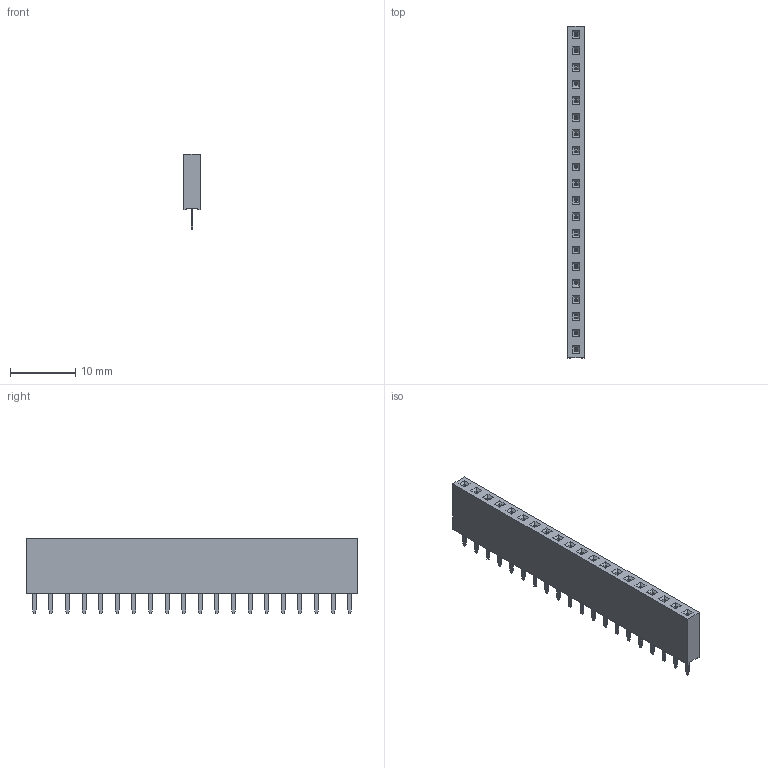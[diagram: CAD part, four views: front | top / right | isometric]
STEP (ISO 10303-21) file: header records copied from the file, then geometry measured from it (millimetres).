
FILE_DESCRIPTION(/* description */ ('STEP AP242 Edition 2','CAx-IF Rec.Pracs.---Representation and Presentation of Product Manufacturing Information (PMI)---4.0---2014-10-13','CAx-IF Rec.Pracs.---3D Tessellated Geometry---0.4---2014-09-14','2;1','CAx-IF Rec.Pracs.---User Defined Attributes---1.5---2016-08-15'),/* implementation_level */ '2;1');
FILE_NAME(/* name */ 'HIRO posing assembly - PinSocket_1x20_P2.54mm_Vertical',/* time_stamp */ '2026-11-04T05:15:22Z',/* author */ (''),/* organization */ (''),/* preprocessor_version */ 'ST-DEVELOPER v20',/* originating_system */ 'ONSHAPE BY PTC INC, 1.223',/* authorisation */ ' ');
FILE_SCHEMA (('AP242_MANAGED_MODEL_BASED_3D_ENGINEERING_MIM_LF { 1 0 10303 442 3 1 4 }'));
Length unit declared in the file: metre
Products named in the file (1): PinSocket_1x20_P2.54mm_Vertical
Bounding box: 2.54 x 50.8 x 11.6 mm (x, y, z)
Volume: 1032.8 mm3; surface area: 1674.6 mm2
Topology: 1 solids, 1 shells, 490 faces, 1264 edges, 816 vertices
Faces by surface type: plane 490
Entity records: 15974 total; most frequent: CARTESIAN_POINT 2571, ORIENTED_EDGE 2528, DIRECTION 2246, EDGE_CURVE 1264, LINE 1264, VECTOR 1264, VERTEX_POINT 816, EDGE_LOOP 530
